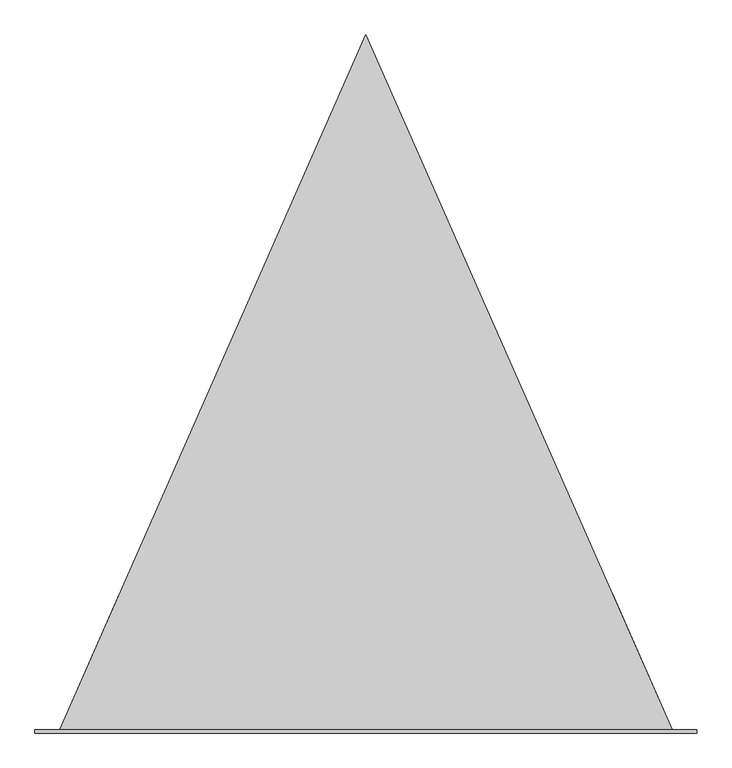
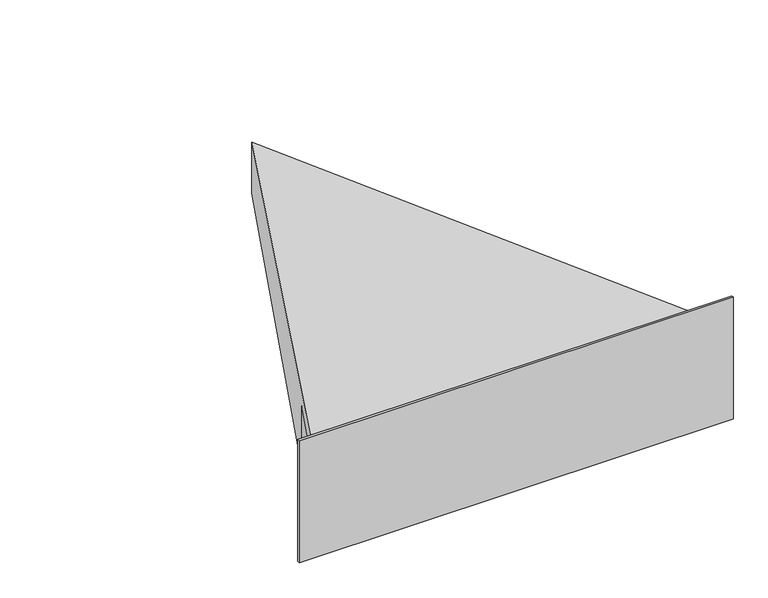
"""IFC4 building model written with IfcOpenShell, lengths in millimetres: proxy geometry, SU.HS.FOOT.1850."""

from ifc_helpers import new_model, si_unit, origin, place, context, project, spatial, faceted_brep, source, transform, mapped, element, save


def generic_models_57929f39(model_context):
    return source(origin(), model_context, "Body", "Brep", [
        faceted_brep([(934.0, 0.0, 0.0), (0.0, 2118.0, 73.9621898), (0.0, 2118.0, 326.0378102), (934.0, 0.0, 400.0), (934.0, 0.0, 300.0), (750.3777149, 416.394004, 321.8222851), (750.3777149, 416.394004, 78.1777149), (934.0, 0.0, 100.0), (-934.0, 0.0, 400.0), (772.2, 0.0, 300.0), (772.2, 0.0, 100.0), (-934.0, 0.0, 0.0), (-934.0, 0.0, 100.0), (-750.3777149, 416.394004, 78.1777149), (-750.3777149, 416.394004, 321.8222851), (-934.0, 0.0, 300.0), (-772.2, 0.0, 100.0), (-772.2, 0.0, 300.0), (-1009.0, 0.0, 500.0), (1009.0, 0.0, 500.0), (1009.0, 0.0, -100.0), (-1009.0, 0.0, -100.0), (-1009.0, -10.0, 500.0), (-1009.0, -10.0, -100.0), (1009.0, -10.0, -100.0), (1009.0, -10.0, 500.0)], [[[0, 1, 2, 3, 4, 5, 6, 7]], [[3, 2, 8]], [[4, 9, 5]], [[9, 10, 6, 5]], [[10, 7, 6]], [[1, 11, 12, 13, 14, 15, 8, 2]], [[13, 16, 17, 14]], [[18, 19, 20, 21], [3, 8, 15, 17, 16, 12, 11, 0, 7, 10, 9, 4]], [[1, 0, 11]], [[14, 17, 15]], [[22, 23, 24, 25]], [[12, 16, 13]], [[19, 18, 22, 25]], [[20, 19, 25, 24]], [[21, 20, 24, 23]], [[18, 21, 23, 22]]]),
    ])


if __name__ == "__main__":
    model = new_model("IFC4")
    model_context = context("Model", 3, world=origin())
    ifc_project = project(units=[si_unit("LENGTHUNIT", "METRE", prefix="MILLI")], contexts=[model_context])
    site = spatial("IfcSite", under=ifc_project)
    building = spatial("IfcBuilding", under=site)
    placement = place(None, origin())
    generic_models_shape = generic_models_57929f39(model_context)
    element("IfcBuildingElementProxy", 1, Name="SU.HS.FOOT.1850", ObjectType="SU.HS.FOOT.1850", at=placement, inside=building, context=model_context, shape_type="MappedRepresentation", body=[
        mapped(generic_models_shape, transform((0.0, 0.0, 0.0), x_axis=(1.0, 0.0, 0.0), y_axis=(0.0, 1.0, 0.0), z_axis=(0.0, 0.0, 1.0))),
    ])
    save(model, "model.ifc")
